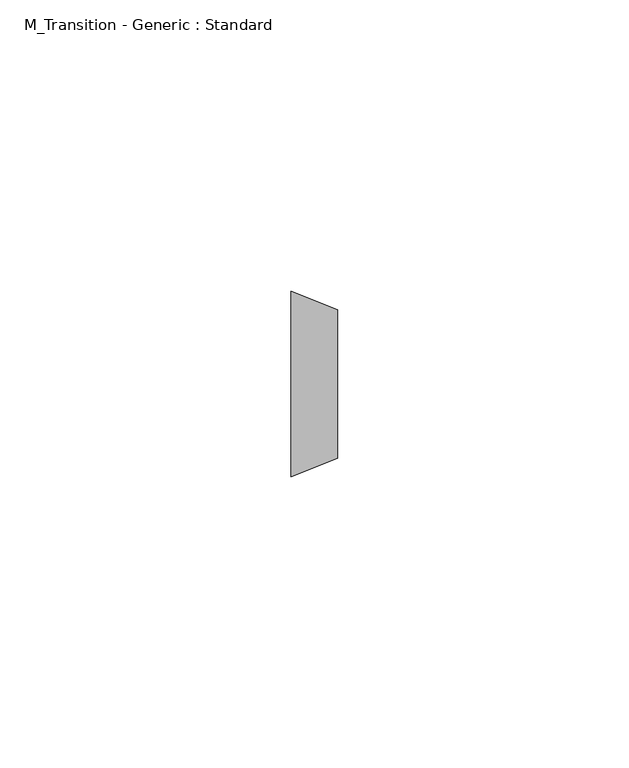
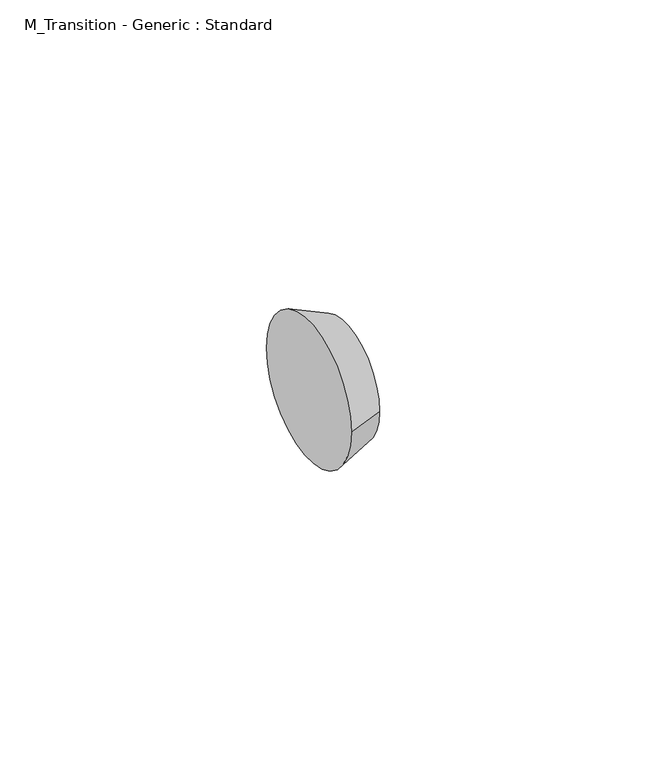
"""IFC4 building model written with IfcOpenShell, lengths in millimetres: pipe fitting geometry, M_Transition - Generic : Standard."""

from ifc_helpers import new_model, si_unit, frame, origin, place, context, project, spatial, polyline, circle_curve, source, transform, mapped, element, save
from ifc_brep_helpers import plane_surface, revolved_surface, advanced_brep


def m_transition_generic_standard_5a02929d(model_context):
    return source(origin(), model_context, "Body", "AdvancedBrep", [
        advanced_brep(
        [(7.9375, -12.7, 0.0), (7.9375, 12.7, 0.0), (0.0, -15.875, 0.0), (0.0, 15.875, 0.0)],
        [
            (0, 1, circle_curve(frame((7.9375, 0.0, 0.0), z_axis=(1.0, 0.0, 0.0), x_axis=(0.0, -1.0, 0.0)), 12.7)),
            (1, 0, circle_curve(frame((7.9375, 0.0, 0.0), z_axis=(1.0, 0.0, 0.0), x_axis=(0.0, 1.0, 0.0)), 12.7)),
            (2, 3, circle_curve(frame((0.0, 0.0, 0.0), z_axis=(-1.0, 0.0, 0.0), x_axis=(0.0, 1.0, 0.0)), 15.875)),
            (3, 2, circle_curve(frame((0.0, 0.0, 0.0), z_axis=(-1.0, 0.0, 0.0), x_axis=(0.0, -1.0, 0.0)), 15.875)),
            (3, 1),
            (0, 2),
        ],
        [
            plane_surface(frame((7.9375, 0.0, 0.0), z_axis=(1.0, 0.0, 0.0), x_axis=(0.0, 0.0, -1.0))),
            plane_surface(frame((0.0, 0.0, 0.0), z_axis=(-1.0, 0.0, 0.0), x_axis=(0.0, 0.0, -1.0))),
            revolved_surface(polyline([(7.9375, -12.700000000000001, 0.0), (0.0, -15.875, 0.0)]), (39.6875, 0.0, 0.0), (-1.0, 0.0, 0.0)),
            revolved_surface(polyline([(7.9375, 12.700000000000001, 0.0), (0.0, 15.875, 0.0)]), (39.6875, 0.0, 0.0), (-1.0, 0.0, 0.0)),
        ],
        [
            (0, [[1, 2]]),
            (1, [[3, 4]]),
            (2, [[-4, 5, -1, 6]]),
            (3, [[-3, -6, -2, -5]]),
        ],
    ),
    ])


if __name__ == "__main__":
    model = new_model("IFC4")
    model_context = context("Model", 3, world=origin())
    ifc_project = project(units=[si_unit("LENGTHUNIT", "METRE", prefix="MILLI")], contexts=[model_context])
    site = spatial("IfcSite", under=ifc_project)
    building = spatial("IfcBuilding", under=site)
    placement = place(None, origin())
    m_transition_generic_standard_shape = m_transition_generic_standard_5a02929d(model_context)
    element("IfcPipeFitting", 1, ObjectType="M_Transition - Generic : Standard", at=placement, inside=building, context=model_context, shape_type="MappedRepresentation", body=[
        mapped(m_transition_generic_standard_shape, transform((0.0, 0.0, 0.0), x_axis=(1.0, 0.0, 0.0), y_axis=(0.0, 1.0, 0.0), z_axis=(0.0, 0.0, 1.0))),
    ])
    save(model, "model.ifc")
